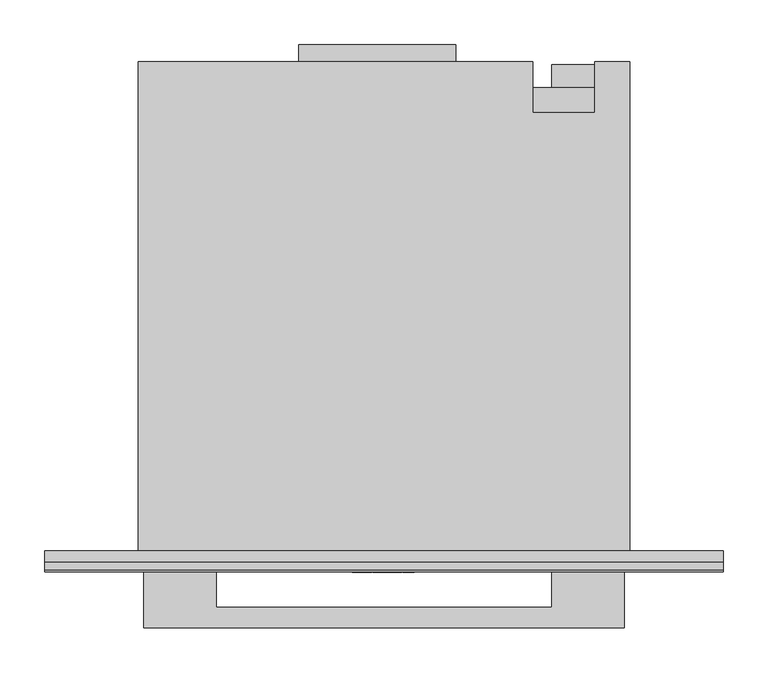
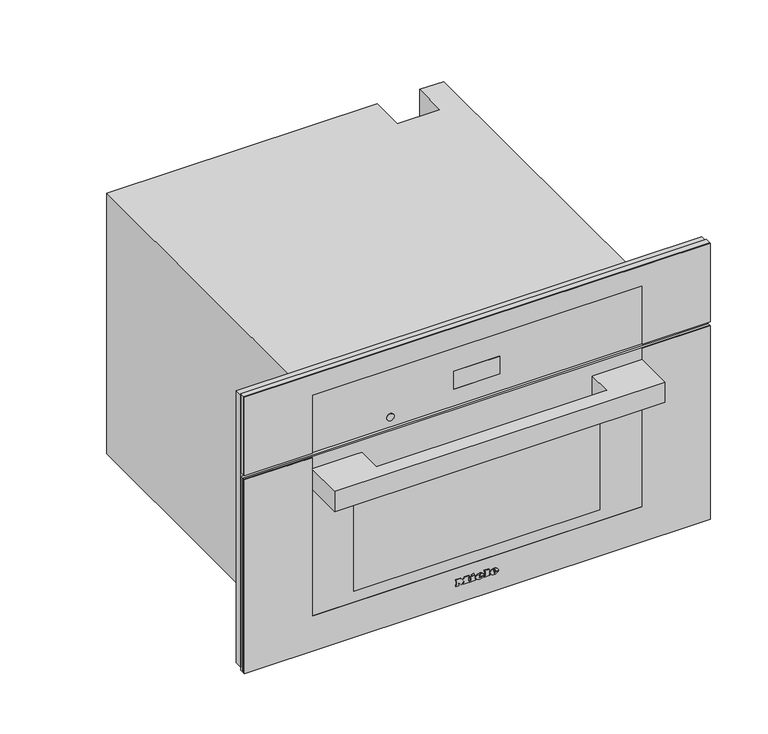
"""IFC4 building model written with IfcOpenShell, lengths in millimetres: proxy geometry, 11875800_USA_DGC7370_EDST-CLST : 23737042_USA_11875800_DGC7370_EDST-CLST."""

from ifc_helpers import new_model, si_unit, point, frame, frame_2d, origin, place, context, project, spatial, polyline, circle_curve, ellipse_curve, trimmed, segment, composite_curve, outline, extrude, faceted_brep, source, transform, mapped, element, save
from ifc_brep_helpers import plane_surface, cylinder_surface, revolved_surface, extruded_surface, advanced_brep


def specialty_equipment_e0a83f77(model_context):
    return source(origin(), model_context, "Body", "SolidModel", [
        faceted_brep([(378.5, -13.0, 476.0), (-378.5, -13.0, 476.0), (-378.5, -13.0, 9.0), (-272.5, -13.0, 9.0), (-272.5, -13.0, 344.0), (272.5, -13.0, 344.0), (272.5, -13.0, 9.0), (378.5, -13.0, 9.0), (378.5, 0.0, 476.0), (378.5, 0.0, 9.0), (-378.5, 0.0, 9.0), (-378.5, 0.0, 476.0), (231.0, 0.0, 58.0), (231.0, 0.0, 286.0), (-231.0, 0.0, 286.0), (-231.0, 0.0, 58.0), (272.5, -5.0, 9.0), (-272.5, -5.0, 9.0), (-272.5, -5.0, 344.0), (272.5, -5.0, 344.0), (231.0, -5.0, 286.0), (231.0, -5.0, 58.0), (-231.0, -5.0, 58.0), (-231.0, -5.0, 286.0)], [[[0, 1, 2, 3, 4, 5, 6, 7]], [[8, 9, 10, 11], [12, 13, 14, 15]], [[1, 0, 8, 11]], [[2, 1, 11, 10]], [[10, 9, 7, 6, 16, 17, 3, 2]], [[0, 7, 9, 8]], [[18, 19, 5, 4]], [[18, 4, 3, 17]], [[5, 19, 16, 6]], [[19, 18, 17, 16], [20, 21, 22, 23]], [[20, 13, 12, 21]], [[21, 12, 15, 22]], [[22, 15, 14, 23]], [[13, 20, 23, 14]]]),
        extrude(outline(polyline([(-95.0, 565.0), (80.0, 565.0), (80.0, 546.0), (-95.0, 546.0), (-95.0, 565.0)])), frame((0.0, 0.0, 260.0), z_axis=(0.0, 0.0, 1.0), x_axis=(1.0, 0.0, 0.0)), (0.0, 0.0, 1.0), 1.0),
        extrude(outline(polyline([(224.8383288, 537.0), (231.1236409, 537.0), (231.1236409, 526.9492425), (229.8571792, 526.9492425), (229.8571792, 535.7409796), (224.8383288, 535.7409796), (224.8383288, 537.0)])), frame((0.0, 0.0, 132.0), z_axis=(0.0, 0.0, 1.0), x_axis=(1.0, 0.0, 0.0)), (0.0, 0.0, 1.0), 1.0),
        extrude(outline(polyline([(233.0, 537.0), (240.3797826, 537.0), (240.3797826, 526.9503529), (233.15422, 526.9503529), (233.15422, 528.220938), (239.1355215, 528.220938), (239.1355215, 531.1975645), (233.4863097, 531.1975645), (233.4863097, 532.449242), (239.1355215, 532.449242), (239.1355215, 535.7448633), (233.0, 535.7448633), (233.0, 537.0)])), frame((0.0, 0.0, 132.0), z_axis=(0.0, 0.0, 1.0), x_axis=(1.0, 0.0, 0.0)), (0.0, 0.0, 1.0), 1.0),
        extrude(outline(composite_curve([segment(trimmed(circle_curve(frame_2d((233.0, 532.0)), 7.5), [point((225.5, 532.0))], [point((240.5, 532.0))], False, "CARTESIAN"), True, "CONTINUOUS"), segment(trimmed(circle_curve(frame_2d((233.0, 532.0)), 7.5), [point((240.5, 532.0))], [point((225.5, 532.0))], False, "CARTESIAN"), True, "CONTINUOUS")], self_intersect=False)), frame((0.0, 0.0, 133.0), z_axis=(0.0, 0.0, 1.0), x_axis=(1.0, 0.0, 0.0)), (0.0, 0.0, 1.0), 30.0),
        extrude(outline(polyline([(266.0, 517.0), (187.0, 517.0), (187.0, 543.0), (266.0, 543.0), (266.0, 517.0)])), frame((0.0, 0.0, 163.0), z_axis=(0.0, 0.0, 1.0), x_axis=(1.0, 0.0, 0.0)), (0.0, 0.0, 1.0), 111.0),
        faceted_brep([(-274.0, 546.0, 0.0), (-274.0, 546.0, 448.0), (166.0, 546.0, 448.0), (166.0, 546.0, 0.0), (235.0, 546.0, 448.0), (274.0, 546.0, 448.0), (274.0, 546.0, 338.0), (235.0, 546.0, 338.0), (274.0, 0.0, 448.0), (-274.0, 0.0, 448.0), (-274.0, 0.0, 0.0), (274.0, 0.0, 0.0), (231.0, 0.0, 286.0), (231.0, 0.0, 58.0), (-231.0, 0.0, 58.0), (-231.0, 0.0, 286.0), (235.0, 489.0, 448.0), (166.0, 489.0, 448.0), (166.0, 517.0, 0.0), (274.0, 517.0, 0.0), (274.0, 517.0, 338.0), (231.0, 411.0, 286.0), (-231.0, 411.0, 286.0), (-231.0, 411.0, 58.0), (231.0, 411.0, 58.0), (235.0, 489.0, 337.0), (166.0, 489.0, 337.0), (166.0, 517.0, 337.0), (235.0, 517.0, 337.0), (235.0, 517.0, 338.0)], [[[0, 1, 2, 3]], [[4, 5, 6, 7]], [[8, 9, 10, 11], [12, 13, 14, 15]], [[9, 8, 5, 4, 16, 17, 2, 1]], [[1, 0, 10, 9]], [[11, 10, 0, 3, 18, 19]], [[8, 11, 19, 20, 6, 5]], [[21, 22, 23, 24]], [[21, 24, 13, 12]], [[24, 23, 14, 13]], [[23, 22, 15, 14]], [[22, 21, 12, 15]], [[16, 25, 26, 17]], [[17, 26, 27, 18, 3, 2]], [[26, 25, 28, 27]], [[25, 16, 4, 7, 29, 28]], [[29, 20, 19, 18, 27, 28]], [[20, 29, 7, 6]]]),
        advanced_brep(
        [(26.2998, -24.3, 36.7018), (26.2998, -24.3, 37.8532), (33.9264, -24.3, 37.8532), (20.6568, -24.3, 37.8532), (23.7918, -24.3, 34.0), (33.7326, -24.3, 36.7018), (30.2898, -24.3, 36.7018), (27.5766, -24.3, 35.425), (26.2998, -24.3, 39.3124), (26.2998, -24.3, 40.555), (28.2492, -24.3, 40.555), (28.2492, -24.3, 39.3124), (26.2998, -23.3, 36.7018), (27.5766, -23.3, 35.425), (30.2898, -23.3, 36.7018), (33.7326, -23.3, 36.7018), (23.7918, -23.3, 34.0), (20.6568, -23.3, 37.8532), (33.9264, -23.3, 37.8532), (26.2998, -23.3, 37.8532), (26.2998, -23.3, 39.3124), (28.2492, -23.3, 39.3124), (28.2492, -23.3, 40.555), (26.2998, -23.3, 40.555)],
        [
            (0, 1),
            (1, 2),
            (2, 3, ellipse_curve(frame((27.2916, -24.3, 37.8532), z_axis=(0.0, -1.0, 0.0), x_axis=(-1.0, 0.0, 0.0)), 6.6348, 5.4834)),
            (3, 4, circle_curve(frame((25.0686622, -24.3, 38.2408), z_axis=(0.0, -1.0, 0.0), x_axis=(0.0, 0.0, -1.0)), 4.4288556)),
            (4, 5, circle_curve(frame((27.1587808, -24.3, 41.2504), z_axis=(0.0, -1.0, 0.0), x_axis=(0.0, 0.0, -1.0)), 7.9940516)),
            (5, 6),
            (6, 7, circle_curve(frame((28.1338588, -24.3, 37.762), z_axis=(0.0, 1.0, 0.0), x_axis=(0.0, 0.0, -1.0)), 2.4025208)),
            (7, 0, circle_curve(frame((27.5766, -24.3, 36.7018), z_axis=(0.0, 1.0, 0.0), x_axis=(0.0, 0.0, -1.0)), 1.2768)),
            (8, 9),
            (9, 10, circle_curve(frame((27.2745, -24.3, 40.555), z_axis=(0.0, 1.0, 0.0), x_axis=(0.0, 0.0, -1.0)), 0.9747)),
            (10, 11),
            (11, 8),
            (12, 13, circle_curve(frame((27.5766, -23.3, 36.7018), z_axis=(0.0, -1.0, 0.0), x_axis=(0.0, 0.0, -1.0)), 1.2768)),
            (13, 14, circle_curve(frame((28.1338588, -23.3, 37.762), z_axis=(0.0, -1.0, 0.0), x_axis=(0.0, 0.0, -1.0)), 2.4025208)),
            (14, 15),
            (15, 16, circle_curve(frame((27.1587808, -23.3, 41.2504), z_axis=(0.0, 1.0, 0.0), x_axis=(0.0, 0.0, -1.0)), 7.9940516)),
            (16, 17, circle_curve(frame((25.0686622, -23.3, 38.2408), z_axis=(0.0, 1.0, 0.0), x_axis=(0.0, 0.0, -1.0)), 4.4288556)),
            (17, 18, ellipse_curve(frame((27.2916, -23.3, 37.8532), z_axis=(0.0, 1.0, 0.0), x_axis=(-1.0, 0.0, 0.0)), 6.6348, 5.4834)),
            (18, 19),
            (19, 12),
            (20, 21),
            (21, 22),
            (22, 23, circle_curve(frame((27.2745, -23.3, 40.555), z_axis=(0.0, -1.0, 0.0), x_axis=(0.0, 0.0, -1.0)), 0.9747)),
            (23, 20),
            (0, 12),
            (19, 1),
            (18, 2),
            (5, 15),
            (14, 6),
            (17, 3),
            (13, 7),
            (16, 4),
            (8, 20),
            (23, 9),
            (22, 10),
            (21, 11),
        ],
        [
            plane_surface(frame((26.2998, -24.3, 37.8532), z_axis=(0.0, -1.0, 0.0), x_axis=(0.0, 0.0, 1.0))),
            plane_surface(frame((26.2998, -23.3, 37.8532), z_axis=(0.0, 1.0, 0.0), x_axis=(0.0, 0.0, -1.0))),
            plane_surface(frame((26.2998, -24.3, 36.7018), z_axis=(1.0, 0.0, 0.0), x_axis=(0.0, 1.0, 0.0))),
            plane_surface(frame((26.2998, -24.3, 37.8532), z_axis=(0.0, 0.0, -1.0), x_axis=(0.0, 1.0, 0.0))),
            plane_surface(frame((33.7326, -24.3, 36.7018), z_axis=(0.0, 0.0, 1.0), x_axis=(0.0, 1.0, 0.0))),
            extruded_surface(trimmed(ellipse_curve(frame((27.2916, -22.3, 37.8532), z_axis=(0.0, -1.0, 0.0), x_axis=(-1.0, 0.0, 0.0)), 6.6348, 5.4834), [point((33.9264, -22.3, 37.8532))], [point((20.6568, -22.3, 37.8532))], True, "CARTESIAN"), (0.0, -1.0, 0.0), 1.0),
            revolved_surface(polyline([(28.1338588, -23.3, 35.3594792), (28.1338588, -24.3, 35.3594792)]), (28.1338588, -23.3, 37.762), (0.0, 1.0, 0.0)),
            revolved_surface(polyline([(27.5766, -23.3, 35.425), (27.5766, -24.3, 35.425)]), (27.5766, -23.3, 36.7018), (0.0, 1.0, 0.0)),
            cylinder_surface(frame((25.0686622, -23.3, 38.2408), z_axis=(0.0, -1.0, 0.0), x_axis=(0.0, 0.0, -1.0)), 4.4288556),
            cylinder_surface(frame((27.1587808, -23.3, 41.2504), z_axis=(0.0, -1.0, 0.0), x_axis=(0.0, 0.0, -1.0)), 7.9940516),
            plane_surface(frame((26.2998, -24.3, 39.3124), z_axis=(1.0, 0.0, 0.0), x_axis=(0.0, 1.0, 0.0))),
            revolved_surface(polyline([(27.2745, -23.3, 39.5803), (27.2745, -24.3, 39.5803)]), (27.2745, -23.3, 40.555), (0.0, 1.0, 0.0)),
            plane_surface(frame((28.2492, -24.3, 40.555), z_axis=(-1.0, 0.0, 0.0), x_axis=(0.0, 1.0, 0.0))),
            plane_surface(frame((28.2492, -24.3, 39.3124), z_axis=(0.0, 0.0, 1.0), x_axis=(0.0, 1.0, 0.0))),
        ],
        [
            (0, [[1, 2, 3, 4, 5, 6, 7, 8], [9, 10, 11, 12]]),
            (1, [[13, 14, 15, 16, 17, 18, 19, 20], [21, 22, 23, 24]]),
            (2, [[-1, 25, -20, 26]]),
            (3, [[-2, -26, -19, 27]]),
            (4, [[-6, 28, -15, 29]]),
            (5, [[-3, -27, -18, 30]]),
            (6, [[-7, -29, -14, 31]]),
            (7, [[-8, -31, -13, -25]]),
            (8, [[-4, -30, -17, 32]]),
            (9, [[-5, -32, -16, -28]]),
            (10, [[-9, 33, -24, 34]]),
            (11, [[-10, -34, -23, 35]]),
            (12, [[-11, -35, -22, 36]]),
            (13, [[-12, -36, -21, -33]]),
        ],
    ),
        advanced_brep(
        [(2.508, -24.3, 36.7018), (2.508, -24.3, 37.8532), (10.1346, -24.3, 37.8532), (-3.135, -24.3, 37.8532), (0.0, -24.3, 34.0), (9.9408, -24.3, 36.7018), (6.498, -24.3, 36.7018), (3.7848, -24.3, 35.425), (2.508, -24.3, 39.3124), (2.508, -24.3, 40.555), (4.4574, -24.3, 40.555), (4.4574, -24.3, 39.3124), (2.508, -23.3, 36.7018), (3.7848, -23.3, 35.425), (6.498, -23.3, 36.7018), (9.9408, -23.3, 36.7018), (0.0, -23.3, 34.0), (-3.135, -23.3, 37.8532), (10.1346, -23.3, 37.8532), (2.508, -23.3, 37.8532), (2.508, -23.3, 39.3124), (4.4574, -23.3, 39.3124), (4.4574, -23.3, 40.555), (2.508, -23.3, 40.555)],
        [
            (0, 1),
            (1, 2),
            (2, 3, ellipse_curve(frame((3.4998, -24.3, 37.8532), z_axis=(0.0, -1.0, 0.0), x_axis=(-1.0, 0.0, 0.0)), 6.6348, 5.4834)),
            (3, 4, circle_curve(frame((1.2768622, -24.3, 38.2408), z_axis=(0.0, -1.0, 0.0), x_axis=(0.0, 0.0, -1.0)), 4.4288556)),
            (4, 5, circle_curve(frame((3.3669808, -24.3, 41.2504), z_axis=(0.0, -1.0, 0.0), x_axis=(0.0, 0.0, -1.0)), 7.9940516)),
            (5, 6),
            (6, 7, circle_curve(frame((4.3420588, -24.3, 37.762), z_axis=(0.0, 1.0, 0.0), x_axis=(0.0, 0.0, -1.0)), 2.4025208)),
            (7, 0, circle_curve(frame((3.7848, -24.3, 36.7018), z_axis=(0.0, 1.0, 0.0), x_axis=(0.0, 0.0, -1.0)), 1.2768)),
            (8, 9),
            (9, 10, circle_curve(frame((3.4827, -24.3, 40.555), z_axis=(0.0, 1.0, 0.0), x_axis=(0.0, 0.0, -1.0)), 0.9747)),
            (10, 11),
            (11, 8),
            (12, 13, circle_curve(frame((3.7848, -23.3, 36.7018), z_axis=(0.0, -1.0, 0.0), x_axis=(0.0, 0.0, -1.0)), 1.2768)),
            (13, 14, circle_curve(frame((4.3420588, -23.3, 37.762), z_axis=(0.0, -1.0, 0.0), x_axis=(0.0, 0.0, -1.0)), 2.4025208)),
            (14, 15),
            (15, 16, circle_curve(frame((3.3669808, -23.3, 41.2504), z_axis=(0.0, 1.0, 0.0), x_axis=(0.0, 0.0, -1.0)), 7.9940516)),
            (16, 17, circle_curve(frame((1.2768622, -23.3, 38.2408), z_axis=(0.0, 1.0, 0.0), x_axis=(0.0, 0.0, -1.0)), 4.4288556)),
            (17, 18, ellipse_curve(frame((3.4998, -23.3, 37.8532), z_axis=(0.0, 1.0, 0.0), x_axis=(-1.0, 0.0, 0.0)), 6.6348, 5.4834)),
            (18, 19),
            (19, 12),
            (20, 21),
            (21, 22),
            (22, 23, circle_curve(frame((3.4827, -23.3, 40.555), z_axis=(0.0, -1.0, 0.0), x_axis=(0.0, 0.0, -1.0)), 0.9747)),
            (23, 20),
            (0, 12),
            (19, 1),
            (18, 2),
            (5, 15),
            (14, 6),
            (17, 3),
            (13, 7),
            (16, 4),
            (8, 20),
            (23, 9),
            (22, 10),
            (21, 11),
        ],
        [
            plane_surface(frame((2.508, -24.3, 37.8532), z_axis=(0.0, -1.0, 0.0), x_axis=(0.0, 0.0, 1.0))),
            plane_surface(frame((2.508, -23.3, 37.8532), z_axis=(0.0, 1.0, 0.0), x_axis=(0.0, 0.0, -1.0))),
            plane_surface(frame((2.508, -24.3, 36.7018), z_axis=(1.0, 0.0, 0.0), x_axis=(0.0, 1.0, 0.0))),
            plane_surface(frame((2.508, -24.3, 37.8532), z_axis=(0.0, 0.0, -1.0), x_axis=(0.0, 1.0, 0.0))),
            plane_surface(frame((9.9408, -24.3, 36.7018), z_axis=(0.0, 0.0, 1.0), x_axis=(0.0, 1.0, 0.0))),
            extruded_surface(trimmed(ellipse_curve(frame((3.4998, -22.3, 37.8532), z_axis=(0.0, -1.0, 0.0), x_axis=(-1.0, 0.0, 0.0)), 6.6348, 5.4834), [point((10.1346, -22.3, 37.8532))], [point((-3.135, -22.3, 37.8532))], True, "CARTESIAN"), (0.0, -1.0, 0.0), 1.0),
            revolved_surface(polyline([(4.3420588, -23.3, 35.3594792), (4.3420588, -24.3, 35.3594792)]), (4.3420588, -23.3, 37.762), (0.0, 1.0, 0.0)),
            revolved_surface(polyline([(3.7848, -23.3, 35.425), (3.7848, -24.3, 35.425)]), (3.7848, -23.3, 36.7018), (0.0, 1.0, 0.0)),
            cylinder_surface(frame((1.2768622, -23.3, 38.2408), z_axis=(0.0, -1.0, 0.0), x_axis=(0.0, 0.0, -1.0)), 4.4288556),
            cylinder_surface(frame((3.3669808, -23.3, 41.2504), z_axis=(0.0, -1.0, 0.0), x_axis=(0.0, 0.0, -1.0)), 7.9940516),
            plane_surface(frame((2.508, -24.3, 39.3124), z_axis=(1.0, 0.0, 0.0), x_axis=(0.0, 1.0, 0.0))),
            revolved_surface(polyline([(3.4827, -23.3, 39.5803), (3.4827, -24.3, 39.5803)]), (3.4827, -23.3, 40.555), (0.0, 1.0, 0.0)),
            plane_surface(frame((4.4574, -24.3, 40.555), z_axis=(-1.0, 0.0, 0.0), x_axis=(0.0, 1.0, 0.0))),
            plane_surface(frame((4.4574, -24.3, 39.3124), z_axis=(0.0, 0.0, 1.0), x_axis=(0.0, 1.0, 0.0))),
        ],
        [
            (0, [[1, 2, 3, 4, 5, 6, 7, 8], [9, 10, 11, 12]]),
            (1, [[13, 14, 15, 16, 17, 18, 19, 20], [21, 22, 23, 24]]),
            (2, [[-1, 25, -20, 26]]),
            (3, [[-2, -26, -19, 27]]),
            (4, [[-6, 28, -15, 29]]),
            (5, [[-3, -27, -18, 30]]),
            (6, [[-7, -29, -14, 31]]),
            (7, [[-8, -31, -13, -25]]),
            (8, [[-4, -30, -17, 32]]),
            (9, [[-5, -32, -16, -28]]),
            (10, [[-9, 33, -24, 34]]),
            (11, [[-10, -34, -23, 35]]),
            (12, [[-11, -35, -22, 36]]),
            (13, [[-12, -36, -21, -33]]),
        ],
    ),
        extrude(outline(polyline([(44.7274, -9.9522), (42.8806, -9.0858), (44.6818, -5.2212), (46.5286, -6.0762), (44.7274, -9.9522)])), frame((0.0, -24.3, 0.0), z_axis=(0.0, 1.0, 0.0), x_axis=(0.0, 0.0, 1.0)), (0.0, 0.0, 1.0), 1.0),
        extrude(outline(polyline([(42.6298, -12.768), (40.5892, -12.768), (40.5892, -11.4114), (35.9152, -11.4114), (35.9152, -12.768), (34.0, -12.768), (34.0, -3.7734), (35.9152, -3.7734), (35.9152, -5.0958), (42.6298, -5.0958), (42.6298, -12.768)])), frame((0.0, -24.3, 0.0), z_axis=(0.0, 1.0, 0.0), x_axis=(0.0, 0.0, 1.0)), (0.0, 0.0, 1.0), 1.0),
        extrude(outline(polyline([(43.5418, 10.773), (43.5418, 12.141), (35.9152, 12.141), (35.9152, 10.773), (34.0, 10.773), (34.0, 20.0184), (35.9152, 20.0184), (35.9152, 18.6162), (45.4, 18.6162), (45.4, 10.773), (43.5418, 10.773)])), frame((0.0, -24.3, 0.0), z_axis=(0.0, 1.0, 0.0), x_axis=(0.0, 0.0, 1.0)), (0.0, 0.0, 1.0), 1.0),
        extrude(outline(polyline([(43.5418, -35.4882), (43.5418, -34.1088), (35.9152, -34.1088), (35.9152, -35.4882), (34.0, -35.4882), (34.0, -30.4722), (35.9152, -30.4722), (35.9152, -31.8402), (40.7429247, -31.8402), (34.0, -26.7444), (40.9402223, -21.6258), (35.9152, -21.6258), (35.9152, -23.028), (34.0, -23.028), (34.0, -13.9308), (35.9152, -13.9308), (35.9152, -15.3786), (43.5418, -15.3786), (43.5418, -13.9308), (45.4, -13.9308), (45.4, -20.8734), (41.125, -24.2022), (45.4, -27.5424), (45.4, -35.4882), (43.5418, -35.4882)])), frame((0.0, -24.3, 0.0), z_axis=(0.0, 1.0, 0.0), x_axis=(0.0, 0.0, 1.0)), (0.0, 0.0, 1.0), 1.0),
        extrude(outline(composite_curve([segment(trimmed(circle_curve(frame_2d((361.0, -140.5745637)), 6.0), [point((361.0, -146.5745637))], [point((361.0, -134.5745637))], False, "CARTESIAN"), True, "CONTINUOUS"), segment(trimmed(circle_curve(frame_2d((361.0, -140.5745637)), 6.0), [point((361.0, -134.5745637))], [point((361.0, -146.5745637))], False, "CARTESIAN"), True, "CONTINUOUS")], self_intersect=False)), frame((0.0, -22.5, 0.0), z_axis=(0.0, 1.0, 0.0), x_axis=(0.0, 0.0, 1.0)), (0.0, 0.0, 1.0), 1.0),
        extrude(outline(polyline([(344.0, -268.5), (444.0, -268.5), (444.0, 268.5), (344.0, 268.5), (344.0, 378.5), (479.0, 378.5), (479.0, -378.5), (344.0, -378.5), (344.0, -268.5)])), frame((0.0, -23.3, 0.0), z_axis=(0.0, 1.0, 0.0), x_axis=(0.0, 0.0, 1.0)), (0.0, 0.0, 1.0), 1.3),
        extrude(outline(polyline([(-37.5, -21.0), (37.5, -21.0), (37.5, -22.0), (-37.5, -22.0), (-37.5, -21.0)])), frame((0.0, 0.0, 373.0), z_axis=(0.0, 0.0, 1.0), x_axis=(1.0, 0.0, 0.0)), (0.0, 0.0, 1.0), 30.5),
        faceted_brep([(378.5, -22.0, 479.0), (-378.5, -22.0, 479.0), (-378.5, -22.0, 344.0), (378.5, -22.0, 344.0), (37.5, -22.0, 403.5), (37.5, -22.0, 373.0), (-37.5, -22.0, 373.0), (-37.5, -22.0, 403.5), (378.5, -13.0, 479.0), (378.5, -13.0, 344.0), (-378.5, -13.0, 344.0), (-378.5, -13.0, 479.0), (37.5, -21.0, 403.5), (-37.5, -21.0, 403.5), (-37.5, -21.0, 373.0), (37.5, -21.0, 373.0)], [[[0, 1, 2, 3], [4, 5, 6, 7]], [[8, 9, 10, 11]], [[1, 0, 8, 11]], [[2, 1, 11, 10]], [[3, 2, 10, 9]], [[0, 3, 9, 8]], [[12, 13, 14, 15]], [[12, 15, 5, 4]], [[15, 14, 6, 5]], [[14, 13, 7, 6]], [[13, 12, 4, 7]]]),
        extrude(outline(polyline([(200.0, -22.0), (-200.0, -22.0), (-200.0, -18.0), (200.0, -18.0), (200.0, -22.0)])), frame((0.0, 0.0, 82.0), z_axis=(0.0, 0.0, 1.0), x_axis=(1.0, 0.0, 0.0)), (0.0, 0.0, 1.0), 170.0),
        extrude(outline(polyline([(337.0, 378.5), (337.0, -378.5), (4.0, -378.5), (4.0, 378.5), (337.0, 378.5)]), holes=[polyline([(252.0, -200.0), (252.0, 200.0), (82.0, 200.0), (82.0, -200.0), (252.0, -200.0)])]), frame((0.0, -22.0, 0.0), z_axis=(0.0, 1.0, 0.0), x_axis=(0.0, 0.0, 1.0)), (0.0, 0.0, 1.0), 4.0),
        extrude(outline(polyline([(-187.0, -22.0), (-187.0, -63.3), (187.0, -63.3), (187.0, -22.0), (268.0, -22.0), (268.0, -86.3), (-268.0, -86.3), (-268.0, -22.0), (-187.0, -22.0)])), frame((0.0, 0.0, 282.0), z_axis=(0.0, 0.0, 1.0), x_axis=(1.0, 0.0, 0.0)), (0.0, 0.0, 1.0), 35.0),
        extrude(outline(polyline([(337.0, -378.5), (4.0, -378.5), (4.0, 378.5), (337.0, 378.5), (337.0, 268.5), (64.0, 268.5), (64.0, -268.5), (337.0, -268.5), (337.0, -378.5)])), frame((0.0, -23.3, 0.0), z_axis=(0.0, 1.0, 0.0), x_axis=(0.0, 0.0, 1.0)), (0.0, 0.0, 1.0), 1.3),
        extrude(outline(polyline([(378.5, -18.0), (-378.5, -18.0), (-378.5, -13.0), (378.5, -13.0), (378.5, -18.0)])), frame((0.0, 0.0, 4.0), z_axis=(0.0, 0.0, 1.0), x_axis=(1.0, 0.0, 0.0)), (0.0, 0.0, 1.0), 333.0),
    ])


if __name__ == "__main__":
    model = new_model("IFC4")
    model_context = context("Model", 3, world=origin())
    ifc_project = project(units=[si_unit("LENGTHUNIT", "METRE", prefix="MILLI")], contexts=[model_context])
    site = spatial("IfcSite", under=ifc_project)
    building = spatial("IfcBuilding", under=site)
    placement = place(None, origin())
    specialty_equipment_shape = specialty_equipment_e0a83f77(model_context)
    element("IfcBuildingElementProxy", 1, Name="11875800_USA_DGC7370_EDST-CLST : 23737042_USA_11875800_DGC7370_EDST-CLST", ObjectType="11875800_USA_DGC7370_EDST-CLST : 23737042_USA_11875800_DGC7370_EDST-CLST", at=placement, inside=building, context=model_context, shape_type="MappedRepresentation", body=[
        mapped(specialty_equipment_shape, transform((0.0, 0.0, 0.0), x_axis=(1.0, 0.0, 0.0), y_axis=(0.0, 1.0, 0.0), z_axis=(0.0, 0.0, 1.0))),
    ])
    save(model, "model.ifc")
